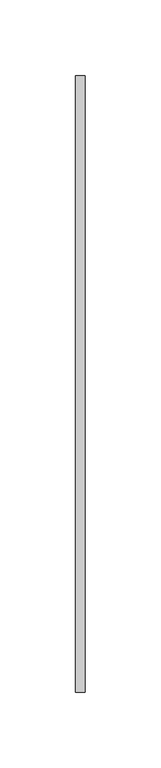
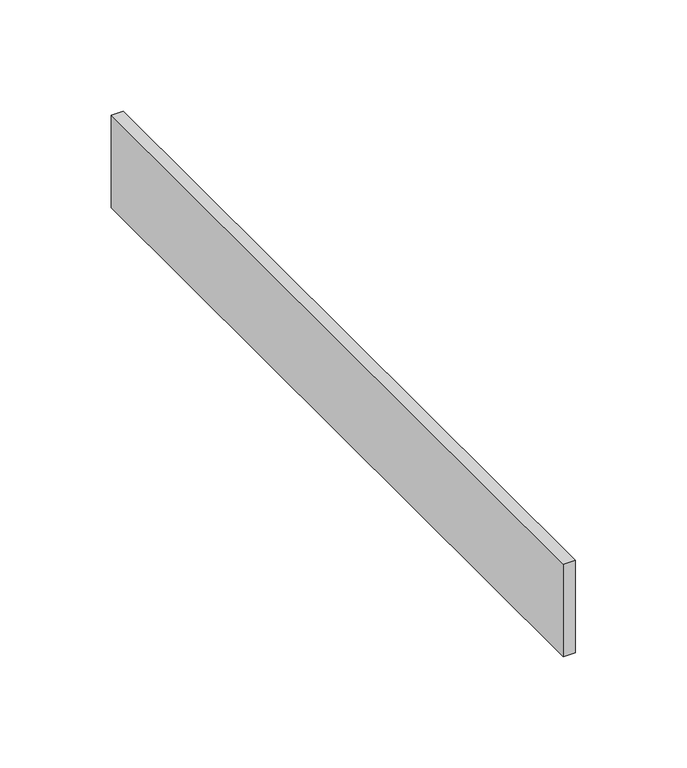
"""IFC4 building model written with IfcOpenShell, lengths in millimetres: beam geometry, Structural Stiffeners 3 : Structural Stiffeners 3."""

from ifc_helpers import new_model, si_unit, frame, origin, place, context, project, spatial, polyline, outline, extrude, source, transform, mapped, element, save


def beam_c16335ed(model_context):
    return source(origin(), model_context, "Body", "SweptSolid", [
        extrude(outline(polyline([(2234.0305289, 2243.4328072), (2240.3805289, 2243.4328072), (2240.3805289, 1837.0328072), (2234.0305289, 1837.0328072), (2234.0305289, 2243.4328072)])), frame((0.0, 0.0, 1060.0641725), z_axis=(0.0, 0.0, 1.0), x_axis=(1.0, 0.0, 0.0)), (0.0, 0.0, 1.0), 50.8),
    ])


if __name__ == "__main__":
    model = new_model("IFC4")
    model_context = context("Model", 3, world=origin())
    ifc_project = project(units=[si_unit("LENGTHUNIT", "METRE", prefix="MILLI")], contexts=[model_context])
    site = spatial("IfcSite", under=ifc_project)
    building = spatial("IfcBuilding", under=site)
    placement = place(None, origin())
    beam_shape = beam_c16335ed(model_context)
    element("IfcBeam", 1, ObjectType="Structural Stiffeners 3 : Structural Stiffeners 3", at=placement, inside=building, context=model_context, shape_type="MappedRepresentation", body=[
        mapped(beam_shape, transform((0.0, 0.0, 0.0), x_axis=(1.0, 0.0, 0.0), y_axis=(0.0, 1.0, 0.0), z_axis=(0.0, 0.0, 1.0))),
    ])
    save(model, "model.ifc")
